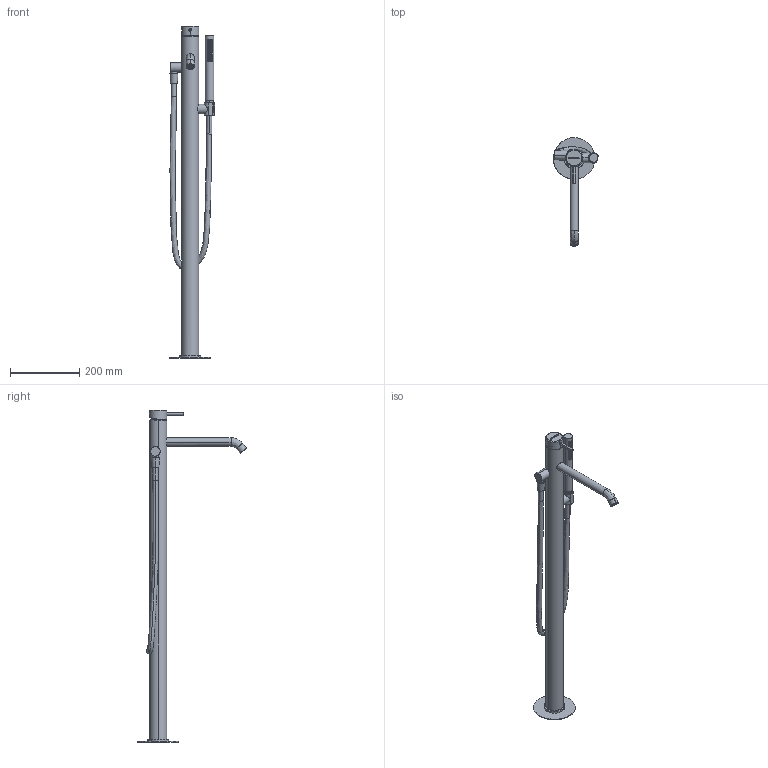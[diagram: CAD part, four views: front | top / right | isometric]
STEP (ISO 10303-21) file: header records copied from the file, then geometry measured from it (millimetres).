
FILE_DESCRIPTION(/* description */ (''),/* implementation_level */ '2;1');
FILE_NAME(/* name */ 'ST2580ACC',/* time_stamp */ '2024-02-26T12:44:16+01:00',/* author */ (''),/* organization */ (''),/* preprocessor_version */ 'ST-DEVELOPER v16.5',/* originating_system */ 'Rhino 7.36',/* authorisation */ '');
FILE_SCHEMA (('CONFIG_CONTROL_DESIGN'));
Length unit declared in the file: millimetre
Products named in the file (1): Document
Bounding box: 130.23 x 314.53 x 956.2 mm (x, y, z)
Volume: 103259.3 mm3; surface area: 281678.2 mm2
Topology: 11 solids, 149 shells, 964 faces, 2482 edges, 1741 vertices
Faces by surface type: plane 381, cylinder 296, bspline 287
Entity records: 42363 total; most frequent: CARTESIAN_POINT 27087, ORIENTED_EDGE 4248, EDGE_CURVE 2482, VERTEX_POINT 1741, B_SPLINE_CURVE_WITH_KNOTS 1185, EDGE_LOOP 1109, ADVANCED_FACE 964, FACE_OUTER_BOUND 964
